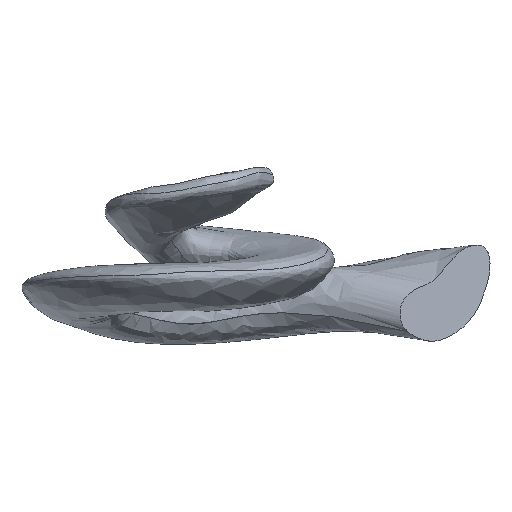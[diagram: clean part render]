
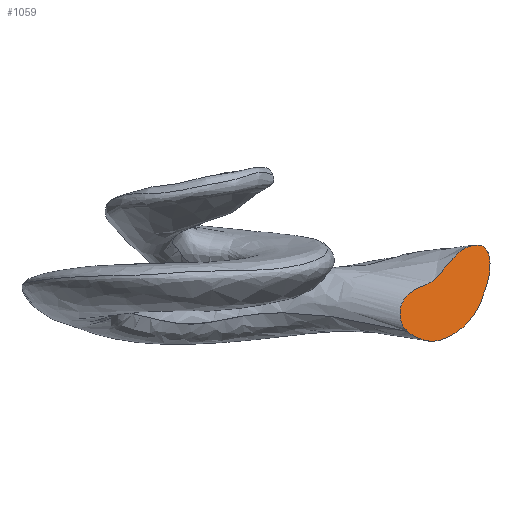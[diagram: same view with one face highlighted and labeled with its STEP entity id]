
A CAD part, left-side view. The second image highlights one B-rep face of the part: STEP entity #1059.
In plain terms, the highlighted planar face has unit normal (-0.896, -0.445, 0).
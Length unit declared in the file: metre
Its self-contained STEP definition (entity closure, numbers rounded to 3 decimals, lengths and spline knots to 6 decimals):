
#115 = EDGE_LOOP ( 'NONE', ( #4215, #782 ) ) ;
#121 = CARTESIAN_POINT ( 'NONE',  ( 0.000007, -0.001584, 0.000032 ) ) ;
#142 = CARTESIAN_POINT ( 'NONE',  ( -0.000128, -0.001312, -0.000413 ) ) ;
#313 = CARTESIAN_POINT ( 'NONE',  ( -0.000063, -0.001442, 0.00108 ) ) ;
#336 = CARTESIAN_POINT ( 'NONE',  ( -0.000773, -0.000012, -0.000086 ) ) ;
#535 = CARTESIAN_POINT ( 'NONE',  ( -0.000404, -0.000757, -0.00077 ) ) ;
#655 = CARTESIAN_POINT ( 'NONE',  ( -0.000252, -0.001062, 0.000863 ) ) ;
#729 = CARTESIAN_POINT ( 'NONE',  ( 0.000063, -0.001697, 0.000924 ) ) ;
#782 = ORIENTED_EDGE ( 'NONE', *, *, #3701, .F. ) ;
#899 = EDGE_CURVE ( 'NONE', #2706, #1208, #4864, .T. ) ;
#1059 = ADVANCED_FACE ( 'NONE', ( #4567 ), #1871, .T. ) ;
#1108 = CARTESIAN_POINT ( 'NONE',  ( -0.000362, -0.000841, 0.000606 ) ) ;
#1208 = VERTEX_POINT ( 'NONE', #2844 ) ;
#1281 = CARTESIAN_POINT ( 'NONE',  ( 0.000085, -0.00174, 0.000729 ) ) ;
#1400 = CARTESIAN_POINT ( 'NONE',  ( -0.000417, -0.000729, 0.000476 ) ) ;
#1679 = CARTESIAN_POINT ( 'NONE',  ( -0.000028, -0.001513, -0.000131 ) ) ;
#1730 = CARTESIAN_POINT ( 'NONE',  ( 0.000063, -0.001697, 0.000924 ) ) ;
#1799 = CARTESIAN_POINT ( 'NONE',  ( -0.000708, -0.000144, -0.00059 ) ) ;
#1847 = CARTESIAN_POINT ( 'NONE',  ( -0.000279, -0.001008, 0.000798 ) ) ;
#1871 = PLANE ( 'NONE',  #2031 ) ;
#1973 = DIRECTION ( 'NONE',  ( 0.445, -0.896, 0. ) ) ;
#2008 = CARTESIAN_POINT ( 'NONE',  ( 0.000062, -0.001693, 0.000362 ) ) ;
#2031 = AXIS2_PLACEMENT_3D ( 'NONE', #2306, #4235, #1973 ) ;
#2060 = CARTESIAN_POINT ( 'NONE',  ( -0.000483, -0.000598, -0.000789 ) ) ;
#2158 = CARTESIAN_POINT ( 'NONE',  ( -0.00039, -0.000783, 0.000543 ) ) ;
#2231 = CARTESIAN_POINT ( 'NONE',  ( -0.000729, -0.000102, -0.000552 ) ) ;
#2306 = CARTESIAN_POINT ( 'NONE',  ( -0.000272, -0.001022, -0.000649 ) ) ;
#2385 = CARTESIAN_POINT ( 'NONE',  ( 0.000075, -0.001721, 0.000857 ) ) ;
#2434 = CARTESIAN_POINT ( 'NONE',  ( -0.000254, -0.001058, -0.000632 ) ) ;
#2539 = CARTESIAN_POINT ( 'NONE',  ( -0.000687, -0.000185, -0.000628 ) ) ;
#2613 = CARTESIAN_POINT ( 'NONE',  ( -0.000708, -0.000144, -0.00059 ) ) ;
#2631 = CARTESIAN_POINT ( 'NONE',  ( -0.000515, -0.000532, 0.00032 ) ) ;
#2706 = VERTEX_POINT ( 'NONE', #4768 ) ;
#2791 = B_SPLINE_CURVE_WITH_KNOTS ( 'NONE', 3,
 ( #1730, #4268, #2385, #1281, #3894, #2008, #3518, #121, #1679, #3542, #142, #4690, #2434, #3946, #535, #2060, #3201, #4048, #2539, #2613 ),
 .UNSPECIFIED., .F., .F.,
 ( 4, 1, 1, 1, 1, 1, 1, 1, 1, 1, 1, 1, 1, 1, 1, 1, 1, 4 ),
 ( 0., 0.000037, 0.000184, 0.000367, 0.000551, 0.000734, 0.000918, 0.001101, 0.001285, 0.001468, 0.001652, 0.001835, 0.002019, 0.002202, 0.002386, 0.002569, 0.002753, 0.002936 ),
 .UNSPECIFIED. ) ;
#2844 = CARTESIAN_POINT ( 'NONE',  ( 0.000063, -0.001697, 0.000924 ) ) ;
#2931 = CARTESIAN_POINT ( 'NONE',  ( 0.000061, -0.001693, 0.000935 ) ) ;
#3201 = CARTESIAN_POINT ( 'NONE',  ( -0.000561, -0.000439, -0.000756 ) ) ;
#3319 = CARTESIAN_POINT ( 'NONE',  ( -0.000784, 0.00001, -0.000275 ) ) ;
#3518 = CARTESIAN_POINT ( 'NONE',  ( 0.000036, -0.001642, 0.0002 ) ) ;
#3542 = CARTESIAN_POINT ( 'NONE',  ( -0.000074, -0.00142, -0.000279 ) ) ;
#3665 = CARTESIAN_POINT ( 'NONE',  ( -0.000729, -0.000101, 0.000069 ) ) ;
#3701 = EDGE_CURVE ( 'NONE', #1208, #2706, #2791, .T. ) ;
#3765 = CARTESIAN_POINT ( 'NONE',  ( -0.000306, -0.000954, 0.000733 ) ) ;
#3894 = CARTESIAN_POINT ( 'NONE',  ( 0.000079, -0.001729, 0.000537 ) ) ;
#3946 = CARTESIAN_POINT ( 'NONE',  ( -0.000326, -0.000912, -0.000709 ) ) ;
#4048 = CARTESIAN_POINT ( 'NONE',  ( -0.000639, -0.000282, -0.00069 ) ) ;
#4089 = CARTESIAN_POINT ( 'NONE',  ( -0.00059, -0.000381, 0.000263 ) ) ;
#4137 = CARTESIAN_POINT ( 'NONE',  ( 0.000049, -0.001669, 0.000986 ) ) ;
#4215 = ORIENTED_EDGE ( 'NONE', *, *, #899, .F. ) ;
#4235 = DIRECTION ( 'NONE',  ( -0.896, -0.445, 0. ) ) ;
#4268 = CARTESIAN_POINT ( 'NONE',  ( 0.000066, -0.001701, 0.000913 ) ) ;
#4442 = CARTESIAN_POINT ( 'NONE',  ( -0.000333, -0.000898, 0.000669 ) ) ;
#4493 = CARTESIAN_POINT ( 'NONE',  ( -0.000154, -0.00126, 0.001027 ) ) ;
#4517 = CARTESIAN_POINT ( 'NONE',  ( -0.000664, -0.000232, 0.000189 ) ) ;
#4567 = FACE_OUTER_BOUND ( 'NONE', #115, .T. ) ;
#4690 = CARTESIAN_POINT ( 'NONE',  ( -0.000187, -0.001193, -0.000533 ) ) ;
#4768 = CARTESIAN_POINT ( 'NONE',  ( -0.000708, -0.000144, -0.00059 ) ) ;
#4814 = CARTESIAN_POINT ( 'NONE',  ( -0.000456, -0.000652, 0.000393 ) ) ;
#4840 = CARTESIAN_POINT ( 'NONE',  ( -0.000213, -0.001141, 0.000943 ) ) ;
#4864 = B_SPLINE_CURVE_WITH_KNOTS ( 'NONE', 3,
 ( #1799, #2231, #4889, #3319, #336, #3665, #4517, #4089, #2631, #4814, #1400, #2158, #1108, #4442, #3765, #1847, #655, #4840, #4493, #313, #4914, #4137, #2931, #729 ),
 .UNSPECIFIED., .F., .F.,
 ( 4, 1, 1, 1, 1, 1, 1, 1, 1, 1, 1, 1, 1, 1, 1, 1, 1, 1, 1, 1, 1, 4 ),
 ( 0., 0.000177, 0.000353, 0.00053, 0.000707, 0.000884, 0.00106, 0.001237, 0.001414, 0.001502, 0.001591, 0.001679, 0.001767, 0.001856, 0.001944, 0.002032, 0.002121, 0.002297, 0.002474, 0.002651, 0.002792, 0.002828 ),
 .UNSPECIFIED. ) ;
#4889 = CARTESIAN_POINT ( 'NONE',  ( -0.000763, -0.000032, -0.00046 ) ) ;
#4914 = CARTESIAN_POINT ( 'NONE',  ( 0.000014, -0.001598, 0.001062 ) ) ;
